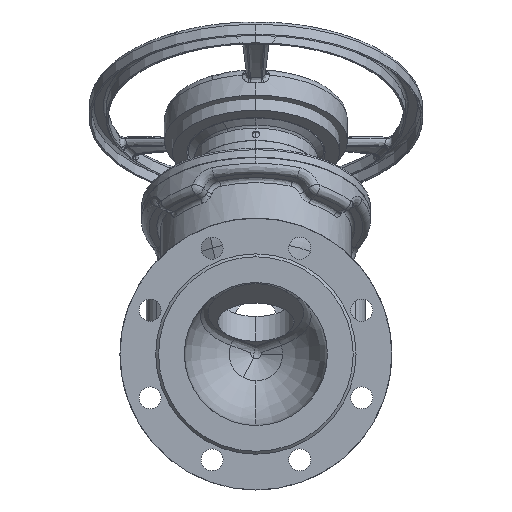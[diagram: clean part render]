
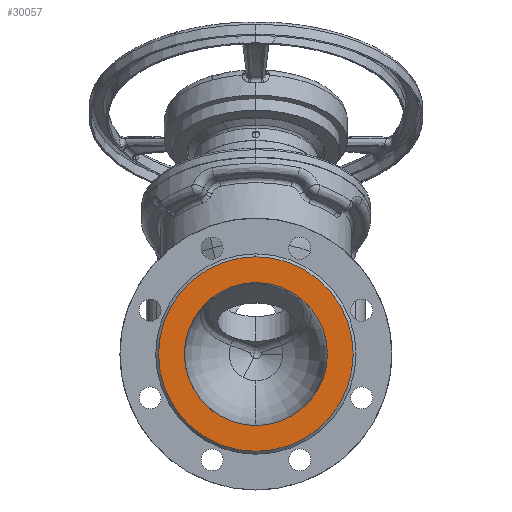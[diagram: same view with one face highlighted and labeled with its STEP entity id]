
A CAD part, front view. The second image highlights one B-rep face of the part: STEP entity #30057.
In plain terms, the highlighted planar face has unit normal (0, -1, 0).
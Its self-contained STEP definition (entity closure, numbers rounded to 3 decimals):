
#1981 = CARTESIAN_POINT ( 'NONE',  ( 0., 0., 75. ) ) ;
#3474 = AXIS2_PLACEMENT_3D ( 'NONE', #22031, #26934, #60190 ) ;
#4462 = DIRECTION ( 'NONE',  ( 0., 1., 0. ) ) ;
#6071 = ORIENTED_EDGE ( 'NONE', *, *, #57358, .T. ) ;
#8796 = VERTEX_POINT ( 'NONE', #45960 ) ;
#10166 = CARTESIAN_POINT ( 'NONE',  ( 0., 0., 0. ) ) ;
#13930 = CARTESIAN_POINT ( 'NONE',  ( 0., 0., 102. ) ) ;
#14858 = AXIS2_PLACEMENT_3D ( 'NONE', #54059, #25457, #58776 ) ;
#15030 = DIRECTION ( 'NONE',  ( 0., 0., 1. ) ) ;
#18264 = EDGE_CURVE ( 'NONE', #62232, #8796, #61899, .T. ) ;
#21343 = FACE_OUTER_BOUND ( 'NONE', #42282, .T. ) ;
#21559 = CIRCLE ( 'NONE', #30326, 102. ) ;
#21978 = CARTESIAN_POINT ( 'NONE',  ( 0., 0., 0. ) ) ;
#22031 = CARTESIAN_POINT ( 'NONE',  ( 0., 0., 0. ) ) ;
#22380 = ORIENTED_EDGE ( 'NONE', *, *, #36290, .T. ) ;
#23036 = EDGE_CURVE ( 'NONE', #8796, #62232, #21559, .T. ) ;
#25457 = DIRECTION ( 'NONE',  ( 0., 1., 0. ) ) ;
#26875 = DIRECTION ( 'NONE',  ( 0., 0., 1. ) ) ;
#26934 = DIRECTION ( 'NONE',  ( 0., 1., 0. ) ) ;
#30057 = ADVANCED_FACE ( 'NONE', ( #21343, #46823 ), #59983, .F. ) ;
#30326 = AXIS2_PLACEMENT_3D ( 'NONE', #10166, #43918, #15030 ) ;
#33630 = CARTESIAN_POINT ( 'NONE',  ( 0., 0., 0. ) ) ;
#36290 = EDGE_CURVE ( 'NONE', #37831, #39997, #48863, .T. ) ;
#37831 = VERTEX_POINT ( 'NONE', #40439 ) ;
#38419 = DIRECTION ( 'NONE',  ( 0., 0., 1. ) ) ;
#39078 = ORIENTED_EDGE ( 'NONE', *, *, #18264, .F. ) ;
#39997 = VERTEX_POINT ( 'NONE', #1981 ) ;
#40439 = CARTESIAN_POINT ( 'NONE',  ( 0., 0., -75. ) ) ;
#42282 = EDGE_LOOP ( 'NONE', ( #39078, #59943 ) ) ;
#43918 = DIRECTION ( 'NONE',  ( 0., 1., 0. ) ) ;
#45960 = CARTESIAN_POINT ( 'NONE',  ( 0., 0., -102. ) ) ;
#46823 = FACE_BOUND ( 'NONE', #54272, .T. ) ;
#48863 = CIRCLE ( 'NONE', #50853, 75. ) ;
#50853 = AXIS2_PLACEMENT_3D ( 'NONE', #21978, #55382, #26875 ) ;
#54059 = CARTESIAN_POINT ( 'NONE',  ( 0., 0., 0. ) ) ;
#54272 = EDGE_LOOP ( 'NONE', ( #6071, #22380 ) ) ;
#55382 = DIRECTION ( 'NONE',  ( 0., 1., 0. ) ) ;
#57358 = EDGE_CURVE ( 'NONE', #39997, #37831, #61012, .T. ) ;
#57714 = AXIS2_PLACEMENT_3D ( 'NONE', #33630, #4462, #38419 ) ;
#58776 = DIRECTION ( 'NONE',  ( 0., 0., 1. ) ) ;
#59943 = ORIENTED_EDGE ( 'NONE', *, *, #23036, .F. ) ;
#59983 = PLANE ( 'NONE',  #3474 ) ;
#60190 = DIRECTION ( 'NONE',  ( 0., 0., 1. ) ) ;
#61012 = CIRCLE ( 'NONE', #14858, 75. ) ;
#61899 = CIRCLE ( 'NONE', #57714, 102. ) ;
#62232 = VERTEX_POINT ( 'NONE', #13930 ) ;
